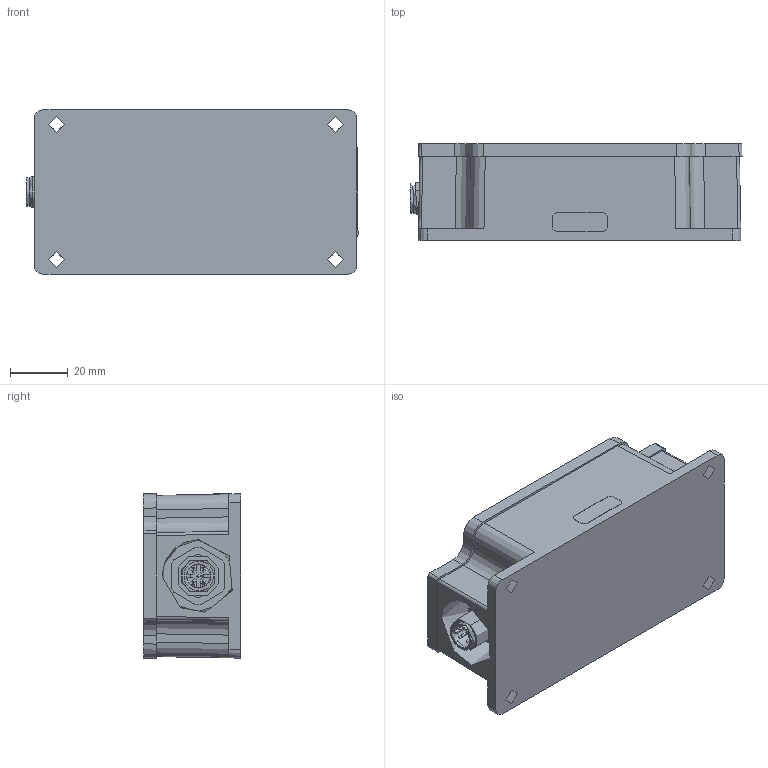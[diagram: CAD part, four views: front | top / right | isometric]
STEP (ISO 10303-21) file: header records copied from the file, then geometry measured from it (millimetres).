
FILE_DESCRIPTION(/* description */ ('','CAx-IF Rec.Pracs.---Representation and Presentation of Product Manufacturing Information (PMI)---4.0---2014-10-13'),/* implementation_level */ '2;1');
FILE_NAME(/* name */ 'S:\Projects\3DA-3DG-EXT-INC-CAN, AX060910, Proj_18008\UNIT ASSEMBLY\RELEASED\rev A\AX060910.stp',/* time_stamp */ '2023-09-05T09:53:11-04:00',/* author */ ('tfisher'),/* organization */ (''),/* preprocessor_version */ 'ST-DEVELOPER v18.1',/* originating_system */ 'Autodesk Inventor 2021',/* authorisation */ '');
FILE_SCHEMA (('AP242_MANAGED_MODEL_BASED_3D_ENGINEERING_MIM_LF { 1 0 10303 442 1 1 4 }'));
Products named in the file (1): AX060910  for STEP
Bounding box: 114.81 x 33.58 x 57.09 mm (x, y, z)
Volume: 172459.2 mm3; surface area: 30275.7 mm2
Topology: 3 solids, 3 shells, 2802 faces, 7474 edges, 4977 vertices
Faces by surface type: plane 1743, bspline 797, cylinder 168, cone 59, torus 28, sphere 7
Full cylindrical faces by diameter (mm): 1 x5, 1.1 x5, 1.524 x10, 3.251 x4, 4 x4, 8 x4, 8.2 x1, 8.3 x1, 10.2 x1, 10.5 x1, 10.917 x1, 12.192 x2, 12.2 x1, 15.1 x1
Entity records: 93520 total; most frequent: CARTESIAN_POINT 25881, ORIENTED_EDGE 14932, DIRECTION 10336, EDGE_CURVE 7466, LINE 5200, VECTOR 5200, VERTEX_POINT 4977, EDGE_LOOP 3128
